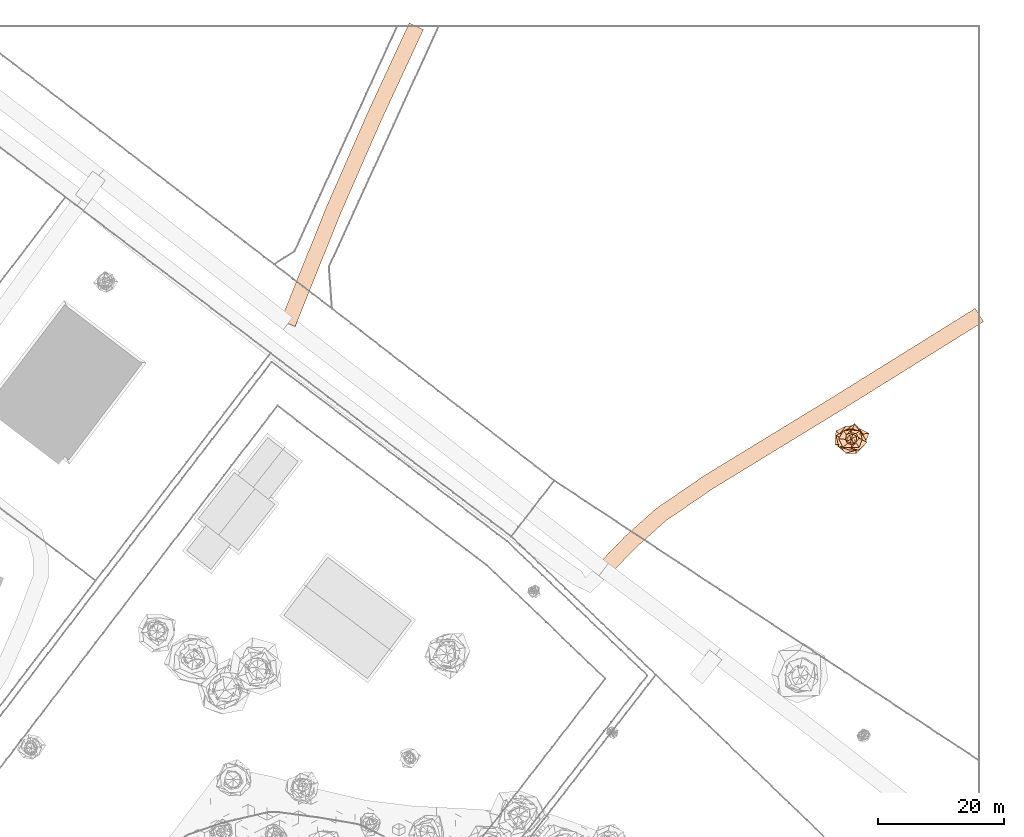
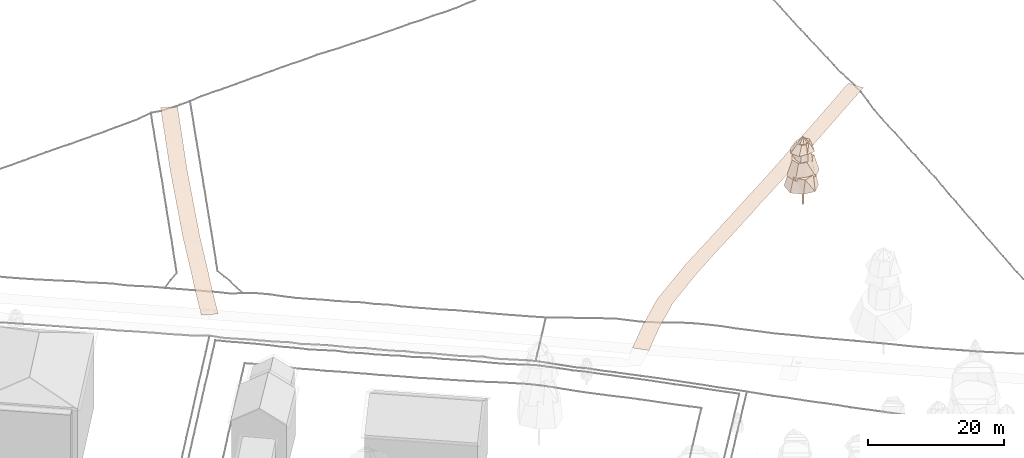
# Not in any storey, part 88 of 88: 3 geographic elements.
"""IFC4 model written with IfcOpenShell, lengths in metres."""

import ifcopenshell
import ifcopenshell.guid

model = None  # the IFC model being written
_history = None  # IfcOwnerHistory: only IFC2X3 demands one
_inside = {}  # id of a spatial element -> (the spatial element, [elements in it])
_under = {}  # id of a project, library or spatial element -> (it, [spatial elements below it])
_declared = {}  # id of a project -> (the project, [libraries it declares])
_typed = {}  # id of a type object -> (the type object, [elements of that type])
_made_of = {}  # id of a material, layer set ... -> (it, [elements and type objects made of it])


def new_model(schema):
    """Start an empty IFC model of exactly this schema.

    Asked for "IFC4X3", IfcOpenShell would pick the latest addendum, in which some entities
    have other attributes; the version numbers below select the first issue.
    IFC2X3 requires an IfcOwnerHistory on every rooted entity: one is made here for all.
    """
    global model, _history
    if schema == "IFC4X3":
        model = ifcopenshell.file(schema_version=(4, 3, 0, 0))
    else:
        model = ifcopenshell.file(schema=schema)
    _inside.clear()
    _under.clear()
    _declared.clear()
    _typed.clear()
    _made_of.clear()
    _history = None
    if model.schema == "IFC2X3":
        org = make("IfcOrganization", Name="unknown")
        user = make(
            "IfcPersonAndOrganization",
            ThePerson=make("IfcPerson", FamilyName="unknown"),
            TheOrganization=org,
        )
        app = make(
            "IfcApplication",
            ApplicationDeveloper=org,
            Version="unknown",
            ApplicationFullName="unknown",
            ApplicationIdentifier="unknown",
        )
        _history = make(
            "IfcOwnerHistory",
            OwningUser=user,
            OwningApplication=app,
            ChangeAction="ADDED",
            CreationDate=0,
        )
    return model


def make(cls, **values):
    """One entity of the class cls with the attributes given. An attribute that is None is left unset."""
    return model.create_entity(
        cls, **{name: value for name, value in values.items() if value is not None}
    )


def rooted(cls, **values):
    """An entity with a GlobalId (a new one), such as an element, a storey or a relation."""
    return make(cls, GlobalId=ifcopenshell.guid.new(), OwnerHistory=_history, **values)


def si_unit(unit_type, name, prefix=None):
    """IfcSIUnit, for example si_unit("LENGTHUNIT", "METRE", prefix="MILLI")."""
    return make("IfcSIUnit", UnitType=unit_type, Prefix=prefix, Name=name)


def assignment(units):
    """IfcUnitAssignment: the units of a project."""
    return None if units is None else make("IfcUnitAssignment", Units=units)


def point(xyz):
    """IfcCartesianPoint."""
    return None if xyz is None else make("IfcCartesianPoint", Coordinates=xyz)


def direction(xyz):
    """IfcDirection."""
    return None if xyz is None else make("IfcDirection", DirectionRatios=xyz)


def frame(location, z_axis=None, x_axis=None):
    """IfcAxis2Placement3D, a coordinate frame: its origin and axes. An axis left out is left unset."""
    return make(
        "IfcAxis2Placement3D",
        Location=point(location),
        Axis=direction(z_axis),
        RefDirection=direction(x_axis),
    )


def origin_with_axes():
    """The frame at (0, 0, 0) with the z axis (0, 0, 1) and the x axis (1, 0, 0) written out."""
    return frame((0.0, 0.0, 0.0), z_axis=(0.0, 0.0, 1.0), x_axis=(1.0, 0.0, 0.0))


def place(relative_to, where):
    """IfcLocalPlacement: puts the frame where relative to a parent placement (None: the world)."""
    return make(
        "IfcLocalPlacement", PlacementRelTo=relative_to, RelativePlacement=where
    )


def context(
    kind, dimensions, precision=None, world=None, true_north=None, identifier=None
):
    """IfcGeometricRepresentationContext, for example the 3D "Model" context."""
    return make(
        "IfcGeometricRepresentationContext",
        ContextIdentifier=identifier,
        ContextType=kind,
        CoordinateSpaceDimension=dimensions,
        Precision=precision,
        WorldCoordinateSystem=world,
        TrueNorth=true_north,
    )


def subcontext(parent, identifier, kind, view, scale=None):
    """IfcGeometricRepresentationSubContext, for example "Body" below "Model"."""
    return make(
        "IfcGeometricRepresentationSubContext",
        ContextIdentifier=identifier,
        ContextType=kind,
        ParentContext=parent,
        TargetScale=scale,
        TargetView=view,
    )


def project(units=None, contexts=None):
    """IfcProject with its units and contexts."""
    return rooted(
        "IfcProject",
        Name="project",
        RepresentationContexts=contexts,
        UnitsInContext=assignment(units),
    )


def spatial(cls, under=None, at=None, **own):
    """A site, building, storey or space (cls), placed at a placement, below another one or the project."""
    s = rooted(cls, ObjectPlacement=at, **own)
    if under is not None:
        _under.setdefault(under.id(), (under, []))[1].append(s)
    return s


def point_list(points):
    """IfcCartesianPointList2D or 3D."""
    cls = (
        "IfcCartesianPointList2D" if len(points[0]) == 2 else "IfcCartesianPointList3D"
    )
    return make(cls, CoordList=points)


def profile(cls, at=None, kind="AREA", **sizes):
    """A parametric profile (cls). Its sizes go by their IFC names, for example OverallWidth=200.0."""
    return make(cls, ProfileType=kind, Position=at, **sizes)


def circle(**sizes):
    """IfcCircleProfileDef."""
    return profile("IfcCircleProfileDef", **sizes)


def extrude(swept, where, along, depth):
    """IfcExtrudedAreaSolid: the profile swept, set in the frame where, extruded along a direction by depth."""
    return make(
        "IfcExtrudedAreaSolid",
        SweptArea=swept,
        Position=where,
        ExtrudedDirection=direction(along),
        Depth=depth,
    )


def faces_of(points, faces, orient=None, outer=None):
    """IfcFace entities. A face is a list of loops; a loop is a list of indices into points, from 0.

    orient and outer hold one flag for each loop. By default every Orientation is true, the
    first loop of a face is its IfcFaceOuterBound and the others are IfcFaceBound.
    """
    made = []
    for i, loops in enumerate(faces):
        bounds = []
        for j, loop in enumerate(loops):
            is_outer = j == 0 if outer is None else outer[i][j]
            bounds.append(
                make(
                    "IfcFaceOuterBound" if is_outer else "IfcFaceBound",
                    Bound=make("IfcPolyLoop", Polygon=[points[k] for k in loop]),
                    Orientation=True if orient is None else orient[i][j],
                )
            )
        made.append(make("IfcFace", Bounds=bounds))
    return made


def faceted_brep(points, faces, orient=None, outer=None, voids=None):
    """IfcFacetedBrep: a solid bounded by flat faces; with voids (closed shells), ...WithVoids."""
    shared = [point(p) for p in points]
    hull = make("IfcClosedShell", CfsFaces=faces_of(shared, faces, orient, outer))
    if voids is None:
        return make("IfcFacetedBrep", Outer=hull)
    return make(
        "IfcFacetedBrepWithVoids",
        Outer=hull,
        Voids=[
            make(cls, CfsFaces=faces_of(shared, fs, o, b)) for cls, fs, o, b in voids
        ],
    )


def triangles(points, corners, closed=None, point_numbers=None):
    """IfcTriangulatedFaceSet: each triangle names its three corners, points numbered from 1."""
    return make(
        "IfcTriangulatedFaceSet",
        Coordinates=point_list(points),
        Closed=closed,
        CoordIndex=corners,
        PnIndex=point_numbers,
    )


def shape(context_of_items, identifier, shape_type, items):
    """IfcShapeRepresentation: the items that make up one representation, for example the "Body"."""
    return make(
        "IfcShapeRepresentation",
        ContextOfItems=context_of_items,
        RepresentationIdentifier=identifier,
        RepresentationType=shape_type,
        Items=items,
    )


def made_of(thing, what):
    """Note that an element or type object is made of a material, layer set ...; save() writes the relation."""
    if what is not None:
        _made_of.setdefault(what.id(), (what, []))[1].append(thing)
    return thing


def element(
    cls,
    number,
    at=None,
    inside=None,
    cuts=None,
    type_object=None,
    material=None,
    context=None,
    identifier="Body",
    shape_type=None,
    held_by="IfcProductDefinitionShape",
    body=None,
    shapes=None,
    **own,
):
    """One element of the class cls, such as IfcWall. Its Tag is "e" and its number.

    at: its placement. inside: the storey or other place that contains it. cuts: it is an
    opening in that element (IfcRelVoidsElement). A single representation is given by context,
    identifier, shape_type and body (its items); several are given by shapes. held_by: the class
    of the entity that holds the representations. save() writes the other relations.
    """
    e = rooted(cls, Tag="e%d" % number, ObjectPlacement=at, **own)
    if body is not None:
        shapes = [shape(context, identifier, shape_type, body)]
    if shapes is not None:
        e.Representation = make(held_by, Representations=shapes)
    if inside is not None:
        _inside.setdefault(inside.id(), (inside, []))[1].append(e)
    if cuts is not None:
        rooted(
            "IfcRelVoidsElement", RelatingBuildingElement=cuts, RelatedOpeningElement=e
        )
    if type_object is not None:
        _typed.setdefault(type_object.id(), (type_object, []))[1].append(e)
    return made_of(e, material)


def aggregate(whole, parts):
    """IfcRelAggregates: a whole, such as a stair, and the parts it consists of."""
    return rooted("IfcRelAggregates", RelatingObject=whole, RelatedObjects=parts)


def save(model, path):
    """Write the relations noted so far, then the file.

    IfcRelAggregates (storeys below a building ...), IfcRelContainedInSpatialStructure (elements
    in a storey), IfcRelDefinesByType, IfcRelAssociatesMaterial and IfcRelDeclares: one each for
    every whole, place, type object, material and project.
    """
    for whole, parts in _under.values():
        aggregate(whole, parts)
    for where, things in _inside.values():
        rooted(
            "IfcRelContainedInSpatialStructure",
            RelatedElements=things,
            RelatingStructure=where,
        )
    for kind, things in _typed.values():
        rooted("IfcRelDefinesByType", RelatedObjects=things, RelatingType=kind)
    for what, things in _made_of.values():
        rooted("IfcRelAssociatesMaterial", RelatedObjects=things, RelatingMaterial=what)
    for by, libraries in _declared.values():
        rooted("IfcRelDeclares", RelatingContext=by, RelatedDefinitions=libraries)
    model.write(path)


model = new_model("IFC4")

# Units and contexts
model_context = context("Model", 3, precision=1e-05, world=origin_with_axes())
body_context = subcontext(model_context, "Body", "Model", "MODEL_VIEW")
ifc_project = project(units=[si_unit("LENGTHUNIT", "METRE"), si_unit("AREAUNIT", "SQUARE_METRE"), si_unit("VOLUMEUNIT", "CUBIC_METRE"), si_unit("PLANEANGLEUNIT", "RADIAN")], contexts=[model_context])

# Sites
site_1_placement = place(None, origin_with_axes())
site_1 = spatial("IfcSite", under=ifc_project, at=site_1_placement, Name="CH907857693633", CompositionType="ELEMENT")
site_2_placement = place(None, origin_with_axes())
site_2 = spatial("IfcSite", under=site_1, at=site_2_placement, Name="Vegetation", CompositionType="ELEMENT")

# Geographic element
geographic_element_1_placement = place(None, frame((218.112000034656, 164.248003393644, 8.67388916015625), z_axis=(0.0, 0.0, 1.0), x_axis=(1.0, 0.0, 0.0)))
element("IfcGeographicElement", 1, at=geographic_element_1_placement, inside=site_2, Name="Tree_einzelbaum", ObjectType="VEGETATION", PredefinedType="USERDEFINED", context=body_context, shape_type="Brep", body=[
    extrude(circle(Radius=0.15), origin_with_axes(), (0.0, 0.0, 1.0), 3.34864965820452),
    faceted_brep([(2.04333017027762, -1.05554096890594, 3.34864965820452), (0.750783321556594, -2.3553413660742, 3.34864965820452), (-1.07948785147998, -2.0896868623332, 3.34864965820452), (-2.62328175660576, -0.836191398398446, 3.34864965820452), (-2.47660487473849, 1.2793614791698, 3.34864965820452), (-0.639671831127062, 2.00676477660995, 3.34864965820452), (0.946570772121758, 1.83238422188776, 3.34864965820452), (2.82959915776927, 0.901956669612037, 3.34864965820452), (1.82815700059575, 0.791480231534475, 5.96743026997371), (0.86186342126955, 2.17789148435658, 5.96743026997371), (-0.882910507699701, 2.03934218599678, 5.96743026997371), (-1.90330278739, 0.753199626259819, 5.96743026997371), (-2.09898454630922, -0.908732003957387, 5.96743026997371), (-0.905495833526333, -2.28814869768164, 5.96743026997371), (0.763873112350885, -1.76439021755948, 5.96743026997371), (1.65275925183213, -0.654051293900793, 5.96743026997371), (2.82959915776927, 0.901956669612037, 3.34864965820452), (0.946570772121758, 1.83238422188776, 3.34864965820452), (0.86186342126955, 2.17789148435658, 5.96743026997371), (1.82815700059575, 0.791480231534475, 5.96743026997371), (0.946570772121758, 1.83238422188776, 3.34864965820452), (-0.639671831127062, 2.00676477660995, 3.34864965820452), (-0.882910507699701, 2.03934218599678, 5.96743026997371), (0.86186342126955, 2.17789148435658, 5.96743026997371), (-0.639671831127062, 2.00676477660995, 3.34864965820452), (-2.47660487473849, 1.2793614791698, 3.34864965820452), (-1.90330278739, 0.753199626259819, 5.96743026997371), (-0.882910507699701, 2.03934218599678, 5.96743026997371), (-2.47660487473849, 1.2793614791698, 3.34864965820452), (-2.62328175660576, -0.836191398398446, 3.34864965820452), (-2.09898454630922, -0.908732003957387, 5.96743026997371), (-1.90330278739, 0.753199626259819, 5.96743026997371), (-2.62328175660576, -0.836191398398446, 3.34864965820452), (-1.07948785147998, -2.0896868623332, 3.34864965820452), (-0.905495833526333, -2.28814869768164, 5.96743026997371), (-2.09898454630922, -0.908732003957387, 5.96743026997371), (-1.07948785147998, -2.0896868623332, 3.34864965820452), (0.750783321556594, -2.3553413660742, 3.34864965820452), (0.763873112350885, -1.76439021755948, 5.96743026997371), (-0.905495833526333, -2.28814869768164, 5.96743026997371), (0.750783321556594, -2.3553413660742, 3.34864965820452), (2.04333017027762, -1.05554096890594, 3.34864965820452), (1.65275925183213, -0.654051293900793, 5.96743026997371), (0.763873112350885, -1.76439021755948, 5.96743026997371), (2.04333017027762, -1.05554096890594, 3.34864965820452), (2.82959915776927, 0.901956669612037, 3.34864965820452), (1.82815700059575, 0.791480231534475, 5.96743026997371), (1.65275925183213, -0.654051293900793, 5.96743026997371)], [[[0, 1, 2, 3, 4, 5, 6, 7]], [[8, 9, 10, 11, 12, 13, 14, 15]], [[16, 17, 18, 19]], [[20, 21, 22, 23]], [[24, 25, 26, 27]], [[28, 29, 30, 31]], [[32, 33, 34, 35]], [[36, 37, 38, 39]], [[40, 41, 42, 43]], [[44, 45, 46, 47]]]),
    faceted_brep([(2.47616145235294, -0.529094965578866, 5.57461317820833), (1.16426944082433, -1.79702554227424, 5.57461317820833), (-0.385125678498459, -1.80238600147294, 5.57461317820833), (-2.02206002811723, -1.31006635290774, 5.57461317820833), (-2.44090435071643, 0.521561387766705, 5.57461317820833), (-0.938854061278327, 1.44910161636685, 5.57461317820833), (0.52972620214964, 2.47911563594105, 5.57461317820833), (1.61527101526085, 1.04651305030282, 5.57461317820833), (1.18048735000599, 0.944675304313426, 8.32954717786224), (0.180658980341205, 1.62811749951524, 8.32954717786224), (-1.06355177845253, 1.32903804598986, 8.32954717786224), (-1.69339163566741, 0.18790192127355, 8.32954717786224), (-1.37123282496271, -1.09731780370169, 8.32954717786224), (-0.162049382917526, -1.46040587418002, 8.32954717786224), (0.829894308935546, -1.03705445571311, 8.32954717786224), (1.77949688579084, -0.197456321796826, 8.32954717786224), (1.61527101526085, 1.04651305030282, 5.57461317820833), (0.52972620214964, 2.47911563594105, 5.57461317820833), (0.180658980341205, 1.62811749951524, 8.32954717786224), (1.18048735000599, 0.944675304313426, 8.32954717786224), (0.52972620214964, 2.47911563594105, 5.57461317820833), (-0.938854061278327, 1.44910161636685, 5.57461317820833), (-1.06355177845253, 1.32903804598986, 8.32954717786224), (0.180658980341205, 1.62811749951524, 8.32954717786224), (-0.938854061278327, 1.44910161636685, 5.57461317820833), (-2.44090435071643, 0.521561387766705, 5.57461317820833), (-1.69339163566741, 0.18790192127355, 8.32954717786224), (-1.06355177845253, 1.32903804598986, 8.32954717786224), (-2.44090435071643, 0.521561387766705, 5.57461317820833), (-2.02206002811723, -1.31006635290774, 5.57461317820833), (-1.37123282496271, -1.09731780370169, 8.32954717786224), (-1.69339163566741, 0.18790192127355, 8.32954717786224), (-2.02206002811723, -1.31006635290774, 5.57461317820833), (-0.385125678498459, -1.80238600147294, 5.57461317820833), (-0.162049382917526, -1.46040587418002, 8.32954717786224), (-1.37123282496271, -1.09731780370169, 8.32954717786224), (-0.385125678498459, -1.80238600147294, 5.57461317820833), (1.16426944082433, -1.79702554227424, 5.57461317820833), (0.829894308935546, -1.03705445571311, 8.32954717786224), (-0.162049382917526, -1.46040587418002, 8.32954717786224), (1.16426944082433, -1.79702554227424, 5.57461317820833), (2.47616145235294, -0.529094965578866, 5.57461317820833), (1.77949688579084, -0.197456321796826, 8.32954717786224), (0.829894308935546, -1.03705445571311, 8.32954717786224), (2.47616145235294, -0.529094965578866, 5.57461317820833), (1.61527101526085, 1.04651305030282, 5.57461317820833), (1.18048735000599, 0.944675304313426, 8.32954717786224), (1.77949688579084, -0.197456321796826, 8.32954717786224)], [[[0, 1, 2, 3, 4, 5, 6, 7]], [[8, 9, 10, 11, 12, 13, 14, 15]], [[16, 17, 18, 19]], [[20, 21, 22, 23]], [[24, 25, 26, 27]], [[28, 29, 30, 31]], [[32, 33, 34, 35]], [[36, 37, 38, 39]], [[40, 41, 42, 43]], [[44, 45, 46, 47]]]),
    faceted_brep([(1.07422288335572, -1.03358658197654, 7.91630707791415), (0.0267627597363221, -1.38818731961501, 7.91630707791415), (-1.09680766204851, -1.139929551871, 7.91630707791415), (-1.34889400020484, -0.0260052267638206, 7.91630707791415), (-1.10442771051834, 1.06264880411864, 7.91630707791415), (-0.0267205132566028, 1.38599599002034, 7.91630707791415), (1.29592748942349, 1.34687793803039, 7.91630707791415), (1.44172315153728, 0.0277948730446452, 7.91630707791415), (1.24406139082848, 0.149095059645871, 10.0347241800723), (0.815656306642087, 1.03778245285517, 10.0347241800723), (-0.125360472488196, 1.04601805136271, 10.0347241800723), (-0.94211305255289, 0.740463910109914, 10.0347241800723), (-0.942208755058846, -0.112919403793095, 10.0347241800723), (-0.661618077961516, -0.841795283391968, 10.0347241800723), (0.149526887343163, -1.24766459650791, 10.0347241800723), (0.91819567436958, -0.721665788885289, 10.0347241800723), (1.44172315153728, 0.0277948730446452, 7.91630707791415), (1.29592748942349, 1.34687793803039, 7.91630707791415), (0.815656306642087, 1.03778245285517, 10.0347241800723), (1.24406139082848, 0.149095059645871, 10.0347241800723), (1.29592748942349, 1.34687793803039, 7.91630707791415), (-0.0267205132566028, 1.38599599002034, 7.91630707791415), (-0.125360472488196, 1.04601805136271, 10.0347241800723), (0.815656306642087, 1.03778245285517, 10.0347241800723), (-0.0267205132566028, 1.38599599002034, 7.91630707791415), (-1.10442771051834, 1.06264880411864, 7.91630707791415), (-0.94211305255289, 0.740463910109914, 10.0347241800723), (-0.125360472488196, 1.04601805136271, 10.0347241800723), (-1.10442771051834, 1.06264880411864, 7.91630707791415), (-1.34889400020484, -0.0260052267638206, 7.91630707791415), (-0.942208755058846, -0.112919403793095, 10.0347241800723), (-0.94211305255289, 0.740463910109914, 10.0347241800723), (-1.34889400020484, -0.0260052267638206, 7.91630707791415), (-1.09680766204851, -1.139929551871, 7.91630707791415), (-0.661618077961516, -0.841795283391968, 10.0347241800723), (-0.942208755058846, -0.112919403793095, 10.0347241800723), (-1.09680766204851, -1.139929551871, 7.91630707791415), (0.0267627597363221, -1.38818731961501, 7.91630707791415), (0.149526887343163, -1.24766459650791, 10.0347241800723), (-0.661618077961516, -0.841795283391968, 10.0347241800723), (0.0267627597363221, -1.38818731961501, 7.91630707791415), (1.07422288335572, -1.03358658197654, 7.91630707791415), (0.91819567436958, -0.721665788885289, 10.0347241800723), (0.149526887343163, -1.24766459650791, 10.0347241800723), (1.07422288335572, -1.03358658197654, 7.91630707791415), (1.44172315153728, 0.0277948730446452, 7.91630707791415), (1.24406139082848, 0.149095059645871, 10.0347241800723), (0.91819567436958, -0.721665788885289, 10.0347241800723)], [[[0, 1, 2, 3, 4, 5, 6, 7]], [[8, 9, 10, 11, 12, 13, 14, 15]], [[16, 17, 18, 19]], [[20, 21, 22, 23]], [[24, 25, 26, 27]], [[28, 29, 30, 31]], [[32, 33, 34, 35]], [[36, 37, 38, 39]], [[40, 41, 42, 43]], [[44, 45, 46, 47]]]),
    faceted_brep([(1.70841025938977, -0.040046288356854, 9.71696161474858), (1.26201922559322, -1.32260454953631, 9.71696161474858), (-0.032445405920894, -1.38414985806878, 9.71696161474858), (-1.38592408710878, -1.32243824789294, 9.71696161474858), (-2.02504497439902, 0.047468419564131, 9.71696161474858), (-1.2756105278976, 1.33684832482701, 9.71696161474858), (0.0331813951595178, 1.41554781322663, 9.71696161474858), (1.36971610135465, 1.30697271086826, 9.71696161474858), (0.73875073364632, 0.861512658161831, 11.0946249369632), (-0.0748215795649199, 0.975336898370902, 11.0946249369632), (-0.795787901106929, 0.682391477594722, 11.0946249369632), (-0.95950407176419, -0.0736069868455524, 11.0946249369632), (-0.624059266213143, -0.727762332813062, 11.0946249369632), (0.0733940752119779, -0.956728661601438, 11.0946249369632), (0.695233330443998, -0.596165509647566, 11.0946249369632), (1.19022935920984, 0.0913067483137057, 11.0946249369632), (1.36971610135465, 1.30697271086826, 9.71696161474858), (0.0331813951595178, 1.41554781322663, 9.71696161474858), (-0.0748215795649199, 0.975336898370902, 11.0946249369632), (0.73875073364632, 0.861512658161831, 11.0946249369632), (0.0331813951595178, 1.41554781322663, 9.71696161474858), (-1.2756105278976, 1.33684832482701, 9.71696161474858), (-0.795787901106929, 0.682391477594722, 11.0946249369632), (-0.0748215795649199, 0.975336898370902, 11.0946249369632), (-1.2756105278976, 1.33684832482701, 9.71696161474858), (-2.02504497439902, 0.047468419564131, 9.71696161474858), (-0.95950407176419, -0.0736069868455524, 11.0946249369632), (-0.795787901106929, 0.682391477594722, 11.0946249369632), (-2.02504497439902, 0.047468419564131, 9.71696161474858), (-1.38592408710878, -1.32243824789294, 9.71696161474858), (-0.624059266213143, -0.727762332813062, 11.0946249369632), (-0.95950407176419, -0.0736069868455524, 11.0946249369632), (-1.38592408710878, -1.32243824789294, 9.71696161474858), (-0.032445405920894, -1.38414985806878, 9.71696161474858), (0.0733940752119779, -0.956728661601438, 11.0946249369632), (-0.624059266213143, -0.727762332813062, 11.0946249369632), (-0.032445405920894, -1.38414985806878, 9.71696161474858), (1.26201922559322, -1.32260454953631, 9.71696161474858), (0.695233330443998, -0.596165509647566, 11.0946249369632), (0.0733940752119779, -0.956728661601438, 11.0946249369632), (1.26201922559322, -1.32260454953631, 9.71696161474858), (1.70841025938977, -0.040046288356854, 9.71696161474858), (1.19022935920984, 0.0913067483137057, 11.0946249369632), (0.695233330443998, -0.596165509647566, 11.0946249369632), (1.70841025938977, -0.040046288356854, 9.71696161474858), (1.36971610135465, 1.30697271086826, 9.71696161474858), (0.73875073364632, 0.861512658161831, 11.0946249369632), (1.19022935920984, 0.0913067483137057, 11.0946249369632)], [[[0, 1, 2, 3, 4, 5, 6, 7]], [[8, 9, 10, 11, 12, 13, 14, 15]], [[16, 17, 18, 19]], [[20, 21, 22, 23]], [[24, 25, 26, 27]], [[28, 29, 30, 31]], [[32, 33, 34, 35]], [[36, 37, 38, 39]], [[40, 41, 42, 43]], [[44, 45, 46, 47]]]),
    faceted_brep([(0.910333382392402, -0.281416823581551, 10.887975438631), (0.406307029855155, -0.769921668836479, 10.887975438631), (-0.257507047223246, -0.832989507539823, 10.887975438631), (-0.845576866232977, -0.446232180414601, 10.887975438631), (-0.80085914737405, 0.247574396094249, 10.887975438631), (-0.362858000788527, 0.687588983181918, 10.887975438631), (0.283241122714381, 0.916234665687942, 10.887975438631), (0.992829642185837, 0.523941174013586, 10.887975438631), (0.0839899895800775, 0.0557000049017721, 11.9761235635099), (0.0247154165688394, 0.122039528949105, 11.9761235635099), (-0.0734815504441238, 0.110802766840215, 11.9761235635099), (-0.118337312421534, 0.0239656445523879, 11.9761235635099), (-0.0926978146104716, -0.0614748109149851, 11.9761235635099), (-0.0231569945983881, -0.11434436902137, 11.9761235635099), (0.0719330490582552, -0.108467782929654, 11.9761235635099), (0.110646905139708, -0.0224081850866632, 11.9761235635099), (0.992829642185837, 0.523941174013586, 10.887975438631), (0.283241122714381, 0.916234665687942, 10.887975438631), (0.0247154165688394, 0.122039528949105, 11.9761235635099), (0.0839899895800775, 0.0557000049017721, 11.9761235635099), (0.283241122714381, 0.916234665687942, 10.887975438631), (-0.362858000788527, 0.687588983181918, 10.887975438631), (-0.0734815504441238, 0.110802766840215, 11.9761235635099), (0.0247154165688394, 0.122039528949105, 11.9761235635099), (-0.362858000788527, 0.687588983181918, 10.887975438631), (-0.80085914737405, 0.247574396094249, 10.887975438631), (-0.118337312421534, 0.0239656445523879, 11.9761235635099), (-0.0734815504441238, 0.110802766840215, 11.9761235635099), (-0.80085914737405, 0.247574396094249, 10.887975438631), (-0.845576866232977, -0.446232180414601, 10.887975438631), (-0.0926978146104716, -0.0614748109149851, 11.9761235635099), (-0.118337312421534, 0.0239656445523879, 11.9761235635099), (-0.845576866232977, -0.446232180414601, 10.887975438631), (-0.257507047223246, -0.832989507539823, 10.887975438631), (-0.0231569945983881, -0.11434436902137, 11.9761235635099), (-0.0926978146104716, -0.0614748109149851, 11.9761235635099), (-0.257507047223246, -0.832989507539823, 10.887975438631), (0.406307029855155, -0.769921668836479, 10.887975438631), (0.0719330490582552, -0.108467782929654, 11.9761235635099), (-0.0231569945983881, -0.11434436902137, 11.9761235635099), (0.406307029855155, -0.769921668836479, 10.887975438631), (0.910333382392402, -0.281416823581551, 10.887975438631), (0.110646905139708, -0.0224081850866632, 11.9761235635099), (0.0719330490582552, -0.108467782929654, 11.9761235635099), (0.910333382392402, -0.281416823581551, 10.887975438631), (0.992829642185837, 0.523941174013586, 10.887975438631), (0.0839899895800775, 0.0557000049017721, 11.9761235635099), (0.110646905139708, -0.0224081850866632, 11.9761235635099)], [[[0, 1, 2, 3, 4, 5, 6, 7]], [[8, 9, 10, 11, 12, 13, 14, 15]], [[16, 17, 18, 19]], [[20, 21, 22, 23]], [[24, 25, 26, 27]], [[28, 29, 30, 31]], [[32, 33, 34, 35]], [[36, 37, 38, 39]], [[40, 41, 42, 43]], [[44, 45, 46, 47]]]),
])

# Site
site_3_placement = place(None, origin_with_axes())
site_3 = spatial("IfcSite", under=site_1, at=site_3_placement, Name="Roads", CompositionType="ELEMENT")

# Geographic elements
geographic_element_2_placement = place(None, origin_with_axes())
element("IfcGeographicElement", 2, at=geographic_element_2_placement, inside=site_3, Name="Road_weg", ObjectType="ROAD", PredefinedType="USERDEFINED", context=body_context, shape_type="Tessellation", body=[
    triangles([(149.917468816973, 229.474248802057, 10.33515625), (148.961124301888, 227.411392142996, 10.3216064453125), (148.004779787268, 225.348535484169, 10.2850463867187), (147.048435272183, 223.285678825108, 10.2458618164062), (146.092090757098, 221.222822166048, 10.193310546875), (145.135746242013, 219.159965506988, 10.1365478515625), (144.179401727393, 217.09710884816, 10.0848510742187), (143.228522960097, 215.046206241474, 10.0753295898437), (142.408905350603, 213.170457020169, 10.0089233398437), (141.583405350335, 211.281457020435, 9.99555664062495), (140.757905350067, 209.392457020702, 9.9531372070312), (139.932405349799, 207.503457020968, 9.9264038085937), (139.10690534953, 205.614457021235, 9.8851440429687), (138.281405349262, 203.725457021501, 9.80402832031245), (137.455905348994, 201.836457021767, 9.82038574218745), (136.637932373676, 199.965046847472, 9.76874999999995), (135.849277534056, 198.001027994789, 9.6961791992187), (135.053610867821, 196.019916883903, 9.60126953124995), (134.257944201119, 194.038805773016, 9.55354003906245), (133.462277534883, 192.05769466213, 9.4382446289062), (132.666610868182, 190.076583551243, 9.2400024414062), (131.870944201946, 188.095472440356, 9.1385620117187), (131.075277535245, 186.11436132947, 9.0761840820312), (130.279610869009, 184.133250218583, 9.0977905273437), (129.483944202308, 182.152139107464, 9.1328247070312), (147.649354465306, 230.525751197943, 10.3825805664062), (146.693009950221, 228.462894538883, 10.3176391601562), (145.736665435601, 226.400037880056, 10.2635620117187), (144.780320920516, 224.337181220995, 10.2651489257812), (143.823976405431, 222.274324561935, 10.2318237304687), (142.867631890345, 220.211467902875, 10.1949584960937), (141.911287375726, 218.148611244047, 10.1331909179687), (140.949477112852, 216.073800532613, 10.1232421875), (140.118094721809, 214.17154975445, 10.0899169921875), (139.292594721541, 212.282549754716, 10.0500610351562), (138.467094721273, 210.393549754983, 10.045849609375), (137.641594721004, 208.504549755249, 9.9762084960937), (136.816094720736, 206.615549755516, 9.9599731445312), (135.990594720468, 204.726549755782, 9.8861206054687), (135.1650947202, 202.837549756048, 9.85151367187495), (134.332067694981, 200.930959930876, 9.79938964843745), (133.529389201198, 198.932756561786, 9.72248535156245), (132.733722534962, 196.951645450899, 9.6423461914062), (131.938055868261, 194.970534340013, 9.5750854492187), (131.142389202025, 192.989423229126, 9.4909790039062), (130.346722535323, 191.00831211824, 9.28669433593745), (129.551055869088, 189.027201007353, 9.1401489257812), (128.755389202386, 187.046089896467, 9.0890014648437), (127.95972253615, 185.06497878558, 9.13496093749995), (127.164055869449, 183.083867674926, 9.1566284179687)], [[1, 26, 2], [26, 27, 2], [2, 27, 3], [27, 28, 3], [3, 28, 4], [28, 29, 4], [4, 29, 5], [29, 30, 5], [5, 30, 6], [30, 31, 6], [6, 31, 7], [31, 32, 7], [7, 32, 8], [32, 33, 8], [8, 33, 9], [33, 34, 9], [9, 34, 10], [34, 35, 10], [10, 35, 11], [35, 36, 11], [11, 36, 12], [36, 37, 12], [12, 37, 13], [37, 38, 13], [13, 38, 14], [38, 39, 14], [14, 39, 15], [39, 40, 15], [15, 40, 16], [40, 41, 16], [16, 41, 17], [41, 42, 17], [17, 42, 18], [42, 43, 18], [18, 43, 19], [43, 44, 19], [19, 44, 20], [44, 45, 20], [20, 45, 21], [45, 46, 21], [21, 46, 22], [46, 47, 22], [22, 47, 23], [47, 48, 23], [23, 48, 24], [48, 49, 24], [24, 49, 25], [49, 50, 25]]),
])
geographic_element_3_placement = place(None, origin_with_axes())
element("IfcGeographicElement", 3, at=geographic_element_3_placement, inside=site_3, Name="Road_weg", ObjectType="ROAD", PredefinedType="USERDEFINED", context=body_context, shape_type="Tessellation", body=[
    triangles([(239.155820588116, 182.929899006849, 10.7429931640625), (238.863090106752, 182.749503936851, 10.7329223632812), (237.154213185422, 181.685194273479, 10.6765258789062), (235.444597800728, 180.620425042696, 10.60126953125), (233.734982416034, 179.555655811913, 10.5383422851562), (232.02536703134, 178.490886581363, 10.449169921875), (230.315751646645, 177.42611735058, 10.3802001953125), (228.606136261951, 176.361348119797, 10.2813232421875), (226.896520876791, 175.296578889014, 10.2548950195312), (225.186905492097, 174.231809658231, 10.1093872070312), (223.477290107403, 173.167040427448, 10.0237548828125), (221.767674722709, 172.102271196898, 10.0073974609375), (220.058059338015, 171.037501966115, 9.9809692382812), (218.34844395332, 169.972732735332, 9.9052856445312), (216.634338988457, 168.905180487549, 9.87385253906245), (214.915243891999, 167.85457673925, 9.8283813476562), (213.200660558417, 166.806743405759, 9.77814941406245), (211.486077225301, 165.758910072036, 9.7708862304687), (209.771493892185, 164.711076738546, 9.6550415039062), (208.056910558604, 163.663243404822, 9.5973022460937), (206.342327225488, 162.615410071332, 9.54938964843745), (204.627743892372, 161.567576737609, 9.50153808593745), (202.91316055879, 160.519743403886, 9.4621704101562), (201.198577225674, 159.471910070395, 9.44892578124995), (199.483993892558, 158.424076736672, 9.41682128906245), (197.769410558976, 157.376243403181, 9.31928710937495), (196.083543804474, 156.346499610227, 9.2695434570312), (194.203145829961, 155.061384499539, 9.2763793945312), (192.298145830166, 153.75988450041, 9.2317016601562), (190.393145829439, 152.458384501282, 9.18037109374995), (188.551923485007, 151.20347981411, 9.14521484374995), (187.008363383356, 149.817966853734, 9.03107910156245), (185.400030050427, 148.378300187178, 9.0134399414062), (183.822933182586, 146.967567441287, 8.9987915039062), (182.414831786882, 145.517250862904, 8.99738769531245), (180.97516511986, 144.035584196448, 9.07539062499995), (179.535498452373, 142.55391752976, 9.07880859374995), (237.844179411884, 185.058184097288, 10.749462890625), (237.542909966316, 184.872502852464, 10.7577026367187), (235.832556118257, 183.80727405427, 10.7010009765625), (234.122940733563, 182.742504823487, 10.5667236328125), (232.413325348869, 181.677735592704, 10.4991577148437), (230.703709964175, 180.612966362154, 10.4248779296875), (228.994094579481, 179.548197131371, 10.34443359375), (227.284479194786, 178.483427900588, 10.2462280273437), (225.574863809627, 177.418658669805, 10.211865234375), (223.865248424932, 176.353889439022, 10.1367309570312), (222.155633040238, 175.289120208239, 10.1001098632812), (220.446017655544, 174.224350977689, 9.97761230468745), (218.73640227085, 173.159581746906, 9.9445922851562), (217.026786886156, 172.094812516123, 9.8365600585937), (215.321661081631, 171.03282630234, 9.84138183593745), (213.611589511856, 169.987763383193, 9.77509765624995), (211.897006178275, 168.939930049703, 9.73188476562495), (210.182422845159, 167.892096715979, 9.6963012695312), (208.467839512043, 166.844263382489, 9.6369750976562), (206.753256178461, 165.796430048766, 9.5847290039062), (205.038672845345, 164.748596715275, 9.53364257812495), (203.324089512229, 163.700763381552, 9.5186889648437), (201.609506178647, 162.652930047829, 9.4499633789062), (199.894922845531, 161.605096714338, 9.3971069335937), (198.180339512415, 160.557263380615, 9.39191894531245), (196.465756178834, 159.509430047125, 9.3536499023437), (194.722456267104, 158.443507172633, 9.3210571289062), (192.792854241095, 157.125622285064, 9.24287109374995), (190.8878542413, 155.824122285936, 9.2415893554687), (188.982854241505, 154.522622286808, 9.17817382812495), (187.014076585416, 153.174526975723, 9.1501586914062), (185.340970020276, 151.680706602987, 9.0854614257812), (183.732636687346, 150.241039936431, 9.00861816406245), (182.093066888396, 148.77243934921, 8.99689941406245), (180.621834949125, 147.259422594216, 9.04487304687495), (179.182168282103, 145.77775592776, 9.0844848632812), (177.742501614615, 144.296089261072, 9.1189086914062)], [[1, 38, 2], [38, 39, 2], [2, 39, 3], [39, 40, 3], [3, 40, 4], [40, 41, 4], [4, 41, 5], [41, 42, 5], [5, 42, 6], [42, 43, 6], [6, 43, 7], [43, 44, 7], [7, 44, 8], [44, 45, 8], [8, 45, 9], [45, 46, 9], [9, 46, 10], [46, 47, 10], [10, 47, 11], [47, 48, 11], [11, 48, 12], [48, 49, 12], [12, 49, 13], [49, 50, 13], [13, 50, 14], [50, 51, 14], [14, 51, 15], [51, 52, 15], [15, 52, 16], [52, 53, 16], [16, 53, 17], [53, 54, 17], [17, 54, 18], [54, 55, 18], [18, 55, 19], [55, 56, 19], [19, 56, 20], [56, 57, 20], [20, 57, 21], [57, 58, 21], [21, 58, 22], [58, 59, 22], [22, 59, 23], [59, 60, 23], [23, 60, 24], [60, 61, 24], [24, 61, 25], [61, 62, 25], [25, 62, 26], [62, 63, 26], [26, 63, 27], [63, 64, 27], [27, 64, 28], [64, 65, 28], [28, 65, 29], [65, 66, 29], [29, 66, 30], [66, 67, 30], [30, 67, 31], [67, 68, 31], [31, 68, 32], [68, 69, 32], [32, 69, 33], [69, 70, 33], [33, 70, 34], [70, 71, 34], [34, 71, 35], [71, 72, 35], [35, 72, 36], [72, 73, 36], [36, 73, 37], [73, 74, 37]]),
])

save(model, "model.ifc")
